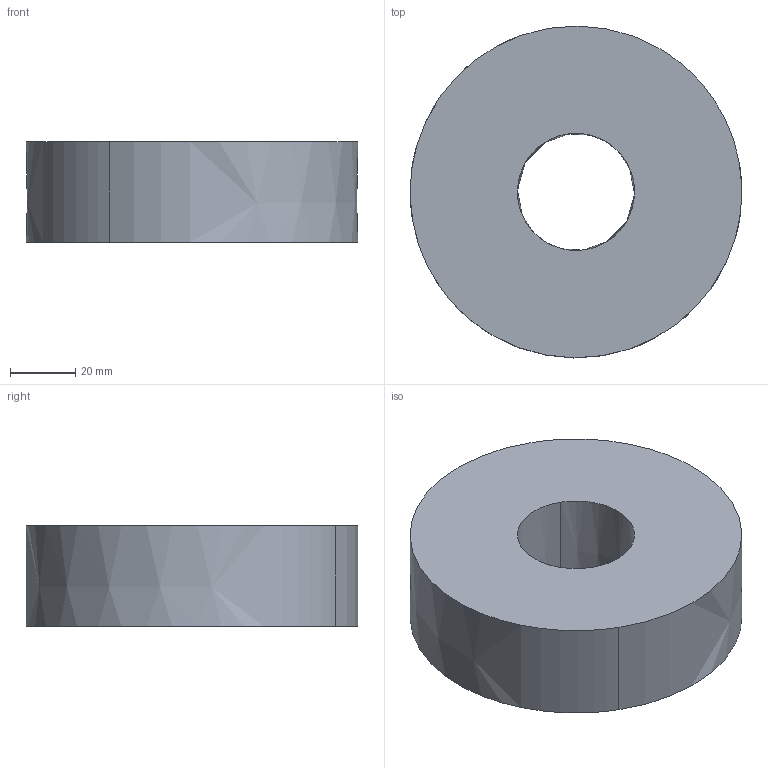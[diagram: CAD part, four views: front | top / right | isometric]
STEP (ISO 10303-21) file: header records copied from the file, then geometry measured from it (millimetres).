
FILE_DESCRIPTION((' '),'2;1');
FILE_NAME( 'Demo-Part+Stock (Stock).STEP', '2023-02-21T18:49:59', (' '), ('--- Datakit www.datakit.com---'), ' Datakit CrossCadWare V2022.3 Jun 16 2022', 'GO2cam V6.10', ' ');
FILE_SCHEMA(('AUTOMOTIVE_DESIGN { 1 0 10303 214 1 1 1 1 }'));
Length unit declared in the file: millimetre
Products named in the file (1): part
Bounding box: 101.94 x 101.99 x 31 mm (x, y, z)
Volume: 221629.6 mm3; surface area: 27746.2 mm2
Topology: 1 solids, 1 shells, 6 faces, 12 edges, 8 vertices
Faces by surface type: bspline 4, plane 2
Entity records: 1057 total; most frequent: CARTESIAN_POINT 937, ORIENTED_EDGE 24, EDGE_CURVE 12, DIRECTION 10, VERTEX_POINT 8, EDGE_LOOP 8, FACE_OUTER_BOUND 6, ADVANCED_FACE 6
